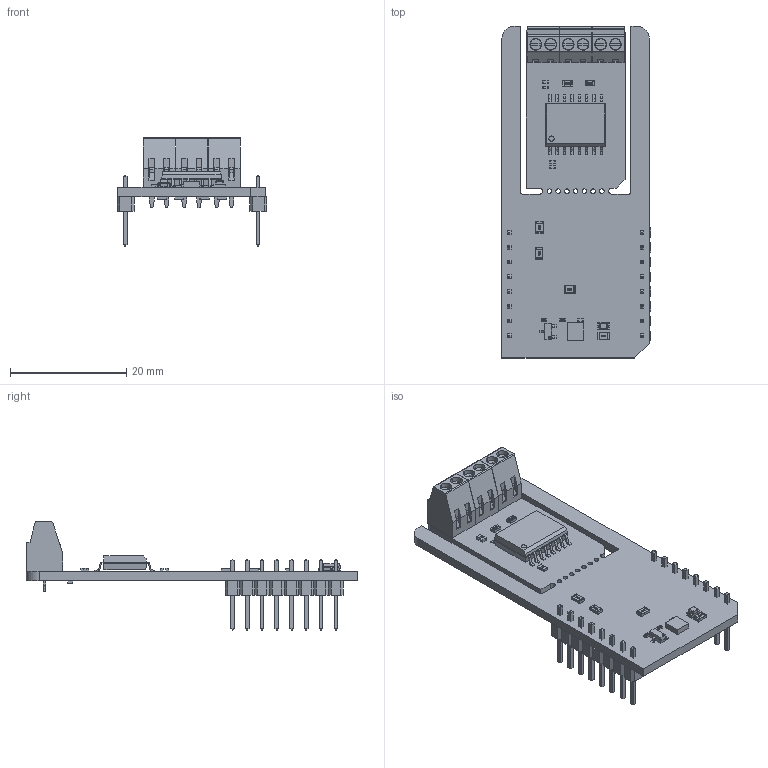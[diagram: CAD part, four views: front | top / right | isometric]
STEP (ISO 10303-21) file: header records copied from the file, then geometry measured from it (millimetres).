
FILE_DESCRIPTION(('Open CASCADE Model'),'2;1');
FILE_NAME('Open CASCADE Shape Model','2025-11-12T09:19:20',('Author'),( 'Open CASCADE'),'Open CASCADE STEP processor 6.8','Open CASCADE 6.8' ,'Unknown');
FILE_SCHEMA(('AUTOMOTIVE_DESIGN { 1 0 10303 214 1 1 1 1 }'));
Length unit declared in the file: millimetre
Products named in the file (43): PCB; Board; R1; User_Library-R_0805; LD1; led_0805_green; R2; User_Library-R_0402; C1; User_Library-SMD_CAPACITOR0402; R4; Q1; SOT23-3; U1; 817145336; Extruded; C5; C4; C2; C3; JP1; MBD1; Header_1x8; Free-Models; 1240637040; User_Library-PinHeaderX5-1_PinHeaderX5_Body_1; User_Library-PinHeaderX5-1_PinHeaderX5_Pins_1; U2; ISO1450BDWR; R3; User_Library-R_0603; R5; R6; R7; R8; R9; R10; R11; TB1; ScrewTerminal_2.54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
Assembly tree (59 placements, depth 7):
  PCB
    Board
    R1
      User_Library-R_0805
    LD1
      led_0805_green
    R2
      User_Library-R_0402
    C1
      User_Library-SMD_CAPACITOR0402
    R4
      User_Library-R_0402
    Q1
      SOT23-3
    U1
      817145336
        Extruded
    C5
      User_Library-SMD_CAPACITOR0402
    C4
      User_Library-SMD_CAPACITOR0402
    C2
      User_Library-SMD_CAPACITOR0402
    C3
      User_Library-SMD_CAPACITOR0402
    JP1
      User_Library-R_0805
    MBD1
      Header_1x8  x2
        PCB
          Free-Models
            1240637040  x2
              User_Library-PinHeaderX5-1_PinHeaderX5_Body_1
              User_Library-PinHeaderX5-1_PinHeaderX5_Pins_1
    U2
      ISO1450BDWR
    R3
      User_Library-R_0603
    R5
      User_Library-R_0603
    R6
      User_Library-R_0603
    R7
      User_Library-R_0603
    R8
      User_Library-R_0603
    R9
      User_Library-R_0603
    R10
      User_Library-R_0805
    R11
      User_Library-R_0805
    TB1
      ScrewTerminal_2.54
    TB2
      ScrewTerminal_2.54
    TB3
      ScrewTerminal_2.54
Bounding box: 25.78 x 57.15 x 18.61 mm (x, y, z)
Volume: 3387.2 mm3; surface area: 7070.6 mm2
Topology: 104 solids, 104 shells, 2706 faces, 6858 edges, 4424 vertices
Faces by surface type: plane 1861, bspline 490, cylinder 309, sphere 46
Full cylindrical faces by diameter (mm): 0.8 x7
Entity records: 41061 total; most frequent: CARTESIAN_POINT 12489, ORIENTED_EDGE 5078, DIRECTION 4558, EDGE_CURVE 2539, LINE 1968, VECTOR 1968, VERTEX_POINT 1654, AXIS2_PLACEMENT_3D 1295
